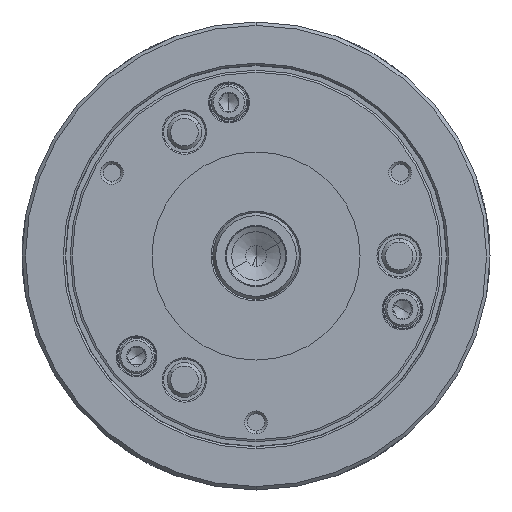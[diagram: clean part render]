
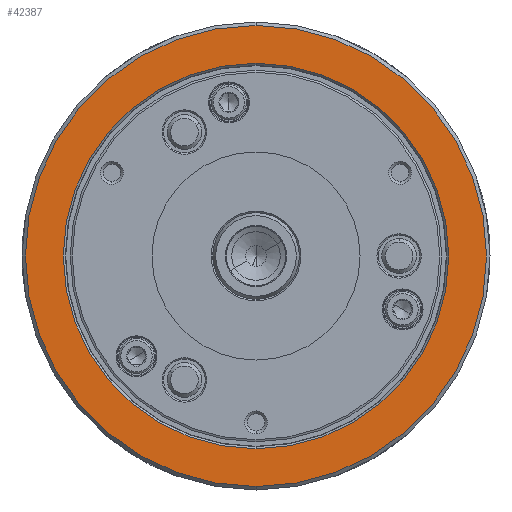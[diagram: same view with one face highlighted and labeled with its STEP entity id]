
A CAD part, left-side view. The second image highlights one B-rep face of the part: STEP entity #42387.
In plain terms, the highlighted planar face has unit normal (-1, 0, 0).
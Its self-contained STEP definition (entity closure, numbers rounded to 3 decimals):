
#563 = CARTESIAN_POINT ( 'NONE',  ( -72., 0., 0. ) ) ;
#1565 = AXIS2_PLACEMENT_3D ( 'NONE', #56929, #11542, #31775 ) ;
#2605 = CIRCLE ( 'NONE', #1565, 55.6 ) ;
#2765 = CIRCLE ( 'NONE', #61976, 66.5 ) ;
#5123 = EDGE_LOOP ( 'NONE', ( #58673, #53785 ) ) ;
#10026 = FACE_BOUND ( 'NONE', #5123, .T. ) ;
#10353 = FACE_OUTER_BOUND ( 'NONE', #51608, .T. ) ;
#10736 = AXIS2_PLACEMENT_3D ( 'NONE', #563, #26007, #21049 ) ;
#11542 = DIRECTION ( 'NONE',  ( 1., 0., 0. ) ) ;
#15667 = DIRECTION ( 'NONE',  ( 0., 0., 1. ) ) ;
#18656 = CARTESIAN_POINT ( 'NONE',  ( -72., 0., 0. ) ) ;
#19350 = EDGE_CURVE ( 'NONE', #60596, #61602, #2605, .T. ) ;
#20255 = CIRCLE ( 'NONE', #10736, 55.6 ) ;
#20273 = DIRECTION ( 'NONE',  ( 1., 0., 0. ) ) ;
#20628 = CARTESIAN_POINT ( 'NONE',  ( -72., 55.6, 0. ) ) ;
#21049 = DIRECTION ( 'NONE',  ( 0., 0., -1. ) ) ;
#21751 = CARTESIAN_POINT ( 'NONE',  ( -72., 0., 0. ) ) ;
#23954 = CARTESIAN_POINT ( 'NONE',  ( -72., 0., -55.6 ) ) ;
#24840 = VERTEX_POINT ( 'NONE', #25455 ) ;
#25455 = CARTESIAN_POINT ( 'NONE',  ( -72., 0., 66.5 ) ) ;
#26007 = DIRECTION ( 'NONE',  ( 1., 0., 0. ) ) ;
#31775 = DIRECTION ( 'NONE',  ( 0., 0., -1. ) ) ;
#36798 = EDGE_CURVE ( 'NONE', #61602, #60596, #20255, .T. ) ;
#38673 = ORIENTED_EDGE ( 'NONE', *, *, #58103, .F. ) ;
#39179 = CARTESIAN_POINT ( 'NONE',  ( -72., 0., -66.5 ) ) ;
#40032 = CARTESIAN_POINT ( 'NONE',  ( -72., 0., 55.6 ) ) ;
#40518 = DIRECTION ( 'NONE',  ( 0., 0., -1. ) ) ;
#41198 = DIRECTION ( 'NONE',  ( -1., 0., 0. ) ) ;
#42387 = ADVANCED_FACE ( 'NONE', ( #10026, #10353 ), #65415, .T. ) ;
#43373 = VERTEX_POINT ( 'NONE', #39179 ) ;
#43878 = DIRECTION ( 'NONE',  ( 1., 0., 0. ) ) ;
#47109 = CIRCLE ( 'NONE', #65091, 66.5 ) ;
#49539 = AXIS2_PLACEMENT_3D ( 'NONE', #20628, #41198, #15667 ) ;
#51608 = EDGE_LOOP ( 'NONE', ( #38673, #64116 ) ) ;
#53785 = ORIENTED_EDGE ( 'NONE', *, *, #19350, .T. ) ;
#54897 = EDGE_CURVE ( 'NONE', #24840, #43373, #2765, .T. ) ;
#56929 = CARTESIAN_POINT ( 'NONE',  ( -72., 0., 0. ) ) ;
#58103 = EDGE_CURVE ( 'NONE', #43373, #24840, #47109, .T. ) ;
#58673 = ORIENTED_EDGE ( 'NONE', *, *, #36798, .T. ) ;
#60596 = VERTEX_POINT ( 'NONE', #23954 ) ;
#61602 = VERTEX_POINT ( 'NONE', #40032 ) ;
#61976 = AXIS2_PLACEMENT_3D ( 'NONE', #18656, #20273, #40518 ) ;
#64078 = DIRECTION ( 'NONE',  ( 0., 0., -1. ) ) ;
#64116 = ORIENTED_EDGE ( 'NONE', *, *, #54897, .F. ) ;
#65091 = AXIS2_PLACEMENT_3D ( 'NONE', #21751, #43878, #64078 ) ;
#65415 = PLANE ( 'NONE',  #49539 ) ;
